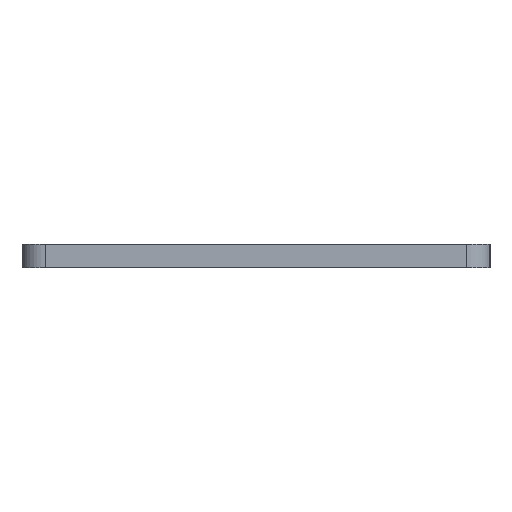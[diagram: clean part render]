
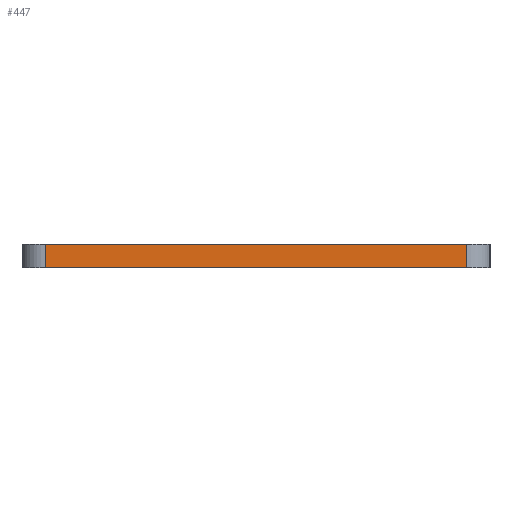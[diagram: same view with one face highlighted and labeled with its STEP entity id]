
A CAD part, left-side view. The second image highlights one B-rep face of the part: STEP entity #447.
In plain terms, the highlighted planar face has unit normal (-1, 0, 0).
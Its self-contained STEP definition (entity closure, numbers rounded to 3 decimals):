
#21 = EDGE_CURVE('',#22,#24,#26,.T.);
#22 = VERTEX_POINT('',#23);
#23 = CARTESIAN_POINT('',(0.,1.,1.));
#24 = VERTEX_POINT('',#25);
#25 = CARTESIAN_POINT('',(0.,19.,1.));
#26 = SURFACE_CURVE('',#27,(#31,#43),.PCURVE_S1.);
#27 = LINE('',#28,#29);
#28 = CARTESIAN_POINT('',(0.,0.,1.));
#29 = VECTOR('',#30,1.);
#30 = DIRECTION('',(0.,1.,0.));
#31 = PCURVE('',#32,#37);
#32 = PLANE('',#33);
#33 = AXIS2_PLACEMENT_3D('',#34,#35,#36);
#34 = CARTESIAN_POINT('',(0.,0.,1.));
#35 = DIRECTION('',(0.,0.,1.));
#36 = DIRECTION('',(1.,0.,0.));
#37 = DEFINITIONAL_REPRESENTATION('',(#38),#42);
#38 = LINE('',#39,#40);
#39 = CARTESIAN_POINT('',(0.,0.));
#40 = VECTOR('',#41,1.);
#41 = DIRECTION('',(0.,1.));
#42 = ( GEOMETRIC_REPRESENTATION_CONTEXT(2) 
PARAMETRIC_REPRESENTATION_CONTEXT() REPRESENTATION_CONTEXT('2D SPACE',''
  ) );
#43 = PCURVE('',#44,#49);
#44 = PLANE('',#45);
#45 = AXIS2_PLACEMENT_3D('',#46,#47,#48);
#46 = CARTESIAN_POINT('',(0.,0.,0.));
#47 = DIRECTION('',(1.,0.,0.));
#48 = DIRECTION('',(0.,0.,1.));
#49 = DEFINITIONAL_REPRESENTATION('',(#50),#54);
#50 = LINE('',#51,#52);
#51 = CARTESIAN_POINT('',(1.,0.));
#52 = VECTOR('',#53,1.);
#53 = DIRECTION('',(0.,-1.));
#54 = ( GEOMETRIC_REPRESENTATION_CONTEXT(2) 
PARAMETRIC_REPRESENTATION_CONTEXT() REPRESENTATION_CONTEXT('2D SPACE',''
  ) );
#73 = CYLINDRICAL_SURFACE('',#74,1.);
#74 = AXIS2_PLACEMENT_3D('',#75,#76,#77);
#75 = CARTESIAN_POINT('',(1.,1.,0.));
#76 = DIRECTION('',(0.,0.,1.));
#77 = DIRECTION('',(-1.,0.,0.));
#250 = CYLINDRICAL_SURFACE('',#251,1.);
#251 = AXIS2_PLACEMENT_3D('',#252,#253,#254);
#252 = CARTESIAN_POINT('',(1.,19.,0.));
#253 = DIRECTION('',(0.,0.,1.));
#254 = DIRECTION('',(-1.,0.,0.));
#447 = ADVANCED_FACE('',(#448),#44,.F.);
#448 = FACE_BOUND('',#449,.F.);
#449 = EDGE_LOOP('',(#450,#451,#474,#502));
#450 = ORIENTED_EDGE('',*,*,#21,.F.);
#451 = ORIENTED_EDGE('',*,*,#452,.F.);
#452 = EDGE_CURVE('',#453,#22,#455,.T.);
#453 = VERTEX_POINT('',#454);
#454 = CARTESIAN_POINT('',(0.,1.,0.));
#455 = SURFACE_CURVE('',#456,(#460,#467),.PCURVE_S1.);
#456 = LINE('',#457,#458);
#457 = CARTESIAN_POINT('',(0.,1.,0.));
#458 = VECTOR('',#459,1.);
#459 = DIRECTION('',(0.,0.,1.));
#460 = PCURVE('',#44,#461);
#461 = DEFINITIONAL_REPRESENTATION('',(#462),#466);
#462 = LINE('',#463,#464);
#463 = CARTESIAN_POINT('',(0.,-1.));
#464 = VECTOR('',#465,1.);
#465 = DIRECTION('',(1.,0.));
#466 = ( GEOMETRIC_REPRESENTATION_CONTEXT(2) 
PARAMETRIC_REPRESENTATION_CONTEXT() REPRESENTATION_CONTEXT('2D SPACE',''
  ) );
#467 = PCURVE('',#73,#468);
#468 = DEFINITIONAL_REPRESENTATION('',(#469),#473);
#469 = LINE('',#470,#471);
#470 = CARTESIAN_POINT('',(0.,0.));
#471 = VECTOR('',#472,1.);
#472 = DIRECTION('',(0.,1.));
#473 = ( GEOMETRIC_REPRESENTATION_CONTEXT(2) 
PARAMETRIC_REPRESENTATION_CONTEXT() REPRESENTATION_CONTEXT('2D SPACE',''
  ) );
#474 = ORIENTED_EDGE('',*,*,#475,.T.);
#475 = EDGE_CURVE('',#453,#476,#478,.T.);
#476 = VERTEX_POINT('',#477);
#477 = CARTESIAN_POINT('',(0.,19.,0.));
#478 = SURFACE_CURVE('',#479,(#483,#490),.PCURVE_S1.);
#479 = LINE('',#480,#481);
#480 = CARTESIAN_POINT('',(0.,0.,0.));
#481 = VECTOR('',#482,1.);
#482 = DIRECTION('',(0.,1.,0.));
#483 = PCURVE('',#44,#484);
#484 = DEFINITIONAL_REPRESENTATION('',(#485),#489);
#485 = LINE('',#486,#487);
#486 = CARTESIAN_POINT('',(0.,0.));
#487 = VECTOR('',#488,1.);
#488 = DIRECTION('',(0.,-1.));
#489 = ( GEOMETRIC_REPRESENTATION_CONTEXT(2) 
PARAMETRIC_REPRESENTATION_CONTEXT() REPRESENTATION_CONTEXT('2D SPACE',''
  ) );
#490 = PCURVE('',#491,#496);
#491 = PLANE('',#492);
#492 = AXIS2_PLACEMENT_3D('',#493,#494,#495);
#493 = CARTESIAN_POINT('',(0.,0.,0.));
#494 = DIRECTION('',(0.,0.,1.));
#495 = DIRECTION('',(1.,0.,0.));
#496 = DEFINITIONAL_REPRESENTATION('',(#497),#501);
#497 = LINE('',#498,#499);
#498 = CARTESIAN_POINT('',(0.,0.));
#499 = VECTOR('',#500,1.);
#500 = DIRECTION('',(0.,1.));
#501 = ( GEOMETRIC_REPRESENTATION_CONTEXT(2) 
PARAMETRIC_REPRESENTATION_CONTEXT() REPRESENTATION_CONTEXT('2D SPACE',''
  ) );
#502 = ORIENTED_EDGE('',*,*,#503,.T.);
#503 = EDGE_CURVE('',#476,#24,#504,.T.);
#504 = SURFACE_CURVE('',#505,(#509,#516),.PCURVE_S1.);
#505 = LINE('',#506,#507);
#506 = CARTESIAN_POINT('',(0.,19.,0.));
#507 = VECTOR('',#508,1.);
#508 = DIRECTION('',(0.,0.,1.));
#509 = PCURVE('',#44,#510);
#510 = DEFINITIONAL_REPRESENTATION('',(#511),#515);
#511 = LINE('',#512,#513);
#512 = CARTESIAN_POINT('',(0.,-19.));
#513 = VECTOR('',#514,1.);
#514 = DIRECTION('',(1.,0.));
#515 = ( GEOMETRIC_REPRESENTATION_CONTEXT(2) 
PARAMETRIC_REPRESENTATION_CONTEXT() REPRESENTATION_CONTEXT('2D SPACE',''
  ) );
#516 = PCURVE('',#250,#517);
#517 = DEFINITIONAL_REPRESENTATION('',(#518),#522);
#518 = LINE('',#519,#520);
#519 = CARTESIAN_POINT('',(-0.,0.));
#520 = VECTOR('',#521,1.);
#521 = DIRECTION('',(-0.,1.));
#522 = ( GEOMETRIC_REPRESENTATION_CONTEXT(2) 
PARAMETRIC_REPRESENTATION_CONTEXT() REPRESENTATION_CONTEXT('2D SPACE',''
  ) );
